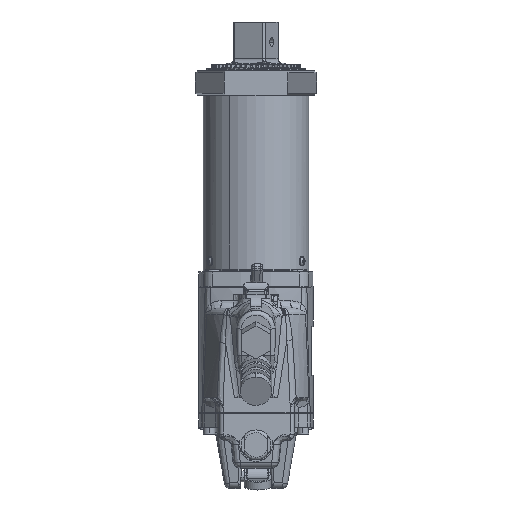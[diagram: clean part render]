
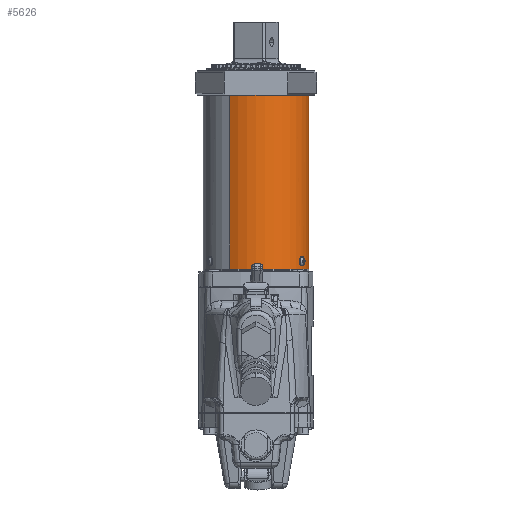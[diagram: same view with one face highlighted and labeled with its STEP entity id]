
A CAD part, front view. The second image highlights one B-rep face of the part: STEP entity #5626.
In plain terms, the highlighted cylindrical face has radius 38.735 mm (diameter 77.47 mm), a partial arc.
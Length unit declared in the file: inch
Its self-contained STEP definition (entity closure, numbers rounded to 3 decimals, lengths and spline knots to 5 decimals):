
#192 = CARTESIAN_POINT ( 'NONE',  ( 1.32067, -0.76252, -3.33173 ) ) ;
#588 = B_SPLINE_CURVE_WITH_KNOTS ( 'NONE', 3,
 ( #29087, #99919, #59544, #130090, #69755, #9391, #80006, #19465, #90167, #29525, #100356, #39599, #110484, #49751, #120561, #59972, #130521, #70200, #9803, #80447, #19900, #90597, #29943, #100785, #40022, #110931, #50177, #120983, #60412, #192 ),
 .UNSPECIFIED., .F., .F.,
 ( 4, 2, 2, 2, 2, 2, 2, 2, 2, 2, 2, 2, 2, 2, 4 ),
 ( 0., 0.00039, 0.00077, 0.00116, 0.00155, 0.00232, 0.0031, 0.00348, 0.00387, 0.00426, 0.00465, 0.00503, 0.00542, 0.00581, 0.00619 ),
 .UNSPECIFIED. ) ;
#842 = DIRECTION ( 'NONE',  ( 0., 0., 1. ) ) ;
#1656 = ORIENTED_EDGE ( 'NONE', *, *, #43290, .T. ) ;
#4746 = ORIENTED_EDGE ( 'NONE', *, *, #44023, .T. ) ;
#5626 = ADVANCED_FACE ( 'NONE', ( #41154, #64947 ), #52189, .T. ) ;
#9391 = CARTESIAN_POINT ( 'NONE',  ( 1.30306, -0.79226, -3.47983 ) ) ;
#9567 = CARTESIAN_POINT ( 'NONE',  ( 1.35773, -0.69441, -3.39944 ) ) ;
#9803 = CARTESIAN_POINT ( 'NONE',  ( 1.28555, -0.82037, -3.37064 ) ) ;
#9975 = CARTESIAN_POINT ( 'NONE',  ( 1.33767, -0.73232, -3.47981 ) ) ;
#11226 = VERTEX_POINT ( 'NONE', #31958 ) ;
#12557 = ORIENTED_EDGE ( 'NONE', *, *, #41758, .F. ) ;
#12712 = CARTESIAN_POINT ( 'NONE',  ( -0.7625, -1.32069, -3.63973 ) ) ;
#13536 = CARTESIAN_POINT ( 'NONE',  ( 0., 0., 1.47527 ) ) ;
#15139 = CARTESIAN_POINT ( 'NONE',  ( 1.32069, -0.7625, -3.48773 ) ) ;
#16428 = DIRECTION ( 'NONE',  ( 0., 0., 1. ) ) ;
#19465 = CARTESIAN_POINT ( 'NONE',  ( 1.29628, -0.80331, -3.47177 ) ) ;
#19646 = CARTESIAN_POINT ( 'NONE',  ( 1.35796, -0.69395, -3.4148 ) ) ;
#19900 = CARTESIAN_POINT ( 'NONE',  ( 1.2903, -0.81287, -3.35824 ) ) ;
#20078 = CARTESIAN_POINT ( 'NONE',  ( 1.32584, -0.75357, -3.48773 ) ) ;
#23626 = DIRECTION ( 'NONE',  ( -0.5, -0.866, 0. ) ) ;
#29087 = CARTESIAN_POINT ( 'NONE',  ( 1.32069, -0.7625, -3.48773 ) ) ;
#29264 = CARTESIAN_POINT ( 'NONE',  ( 1.3308, -0.74477, -3.33377 ) ) ;
#29525 = CARTESIAN_POINT ( 'NONE',  ( 1.28842, -0.81587, -3.45768 ) ) ;
#29576 = VERTEX_POINT ( 'NONE', #30982 ) ;
#29585 = CIRCLE ( 'NONE', #78552, 1.525 ) ;
#29692 = CARTESIAN_POINT ( 'NONE',  ( 1.35683, -0.69615, -3.42985 ) ) ;
#29943 = CARTESIAN_POINT ( 'NONE',  ( 1.29625, -0.80335, -3.34773 ) ) ;
#30982 = CARTESIAN_POINT ( 'NONE',  ( 0.7625, 1.32069, -3.63973 ) ) ;
#31958 = CARTESIAN_POINT ( 'NONE',  ( 1.32067, -0.76252, -3.33173 ) ) ;
#36085 = CARTESIAN_POINT ( 'NONE',  ( 0.7625, 1.32069, -3.63973 ) ) ;
#37492 = B_SPLINE_CURVE_WITH_KNOTS ( 'NONE', 3,
 ( #59279, #69496, #29264, #100097, #39358, #110236, #49496, #120318, #59725, #130264, #69939, #9567, #80182, #19646, #90345, #29692, #100536, #39774, #110658, #49926, #120732, #60151, #130683, #70385, #9975, #80626, #20078, #90766 ),
 .UNSPECIFIED., .F., .F.,
 ( 4, 2, 2, 2, 2, 2, 2, 2, 2, 2, 2, 2, 2, 4 ),
 ( 0.00619, 0.00697, 0.00774, 0.00813, 0.00852, 0.0089, 0.00929, 0.00968, 0.01007, 0.01045, 0.01084, 0.01123, 0.01161, 0.01239 ),
 .UNSPECIFIED. ) ;
#38902 = CIRCLE ( 'NONE', #70946, 1.525 ) ;
#39358 = CARTESIAN_POINT ( 'NONE',  ( 1.344, -0.72065, -3.34734 ) ) ;
#39599 = CARTESIAN_POINT ( 'NONE',  ( 1.28108, -0.82733, -3.43021 ) ) ;
#39774 = CARTESIAN_POINT ( 'NONE',  ( 1.35436, -0.70096, -3.44426 ) ) ;
#40022 = CARTESIAN_POINT ( 'NONE',  ( 1.30306, -0.79227, -3.33963 ) ) ;
#40360 = DIRECTION ( 'NONE',  ( 0., 0., 1. ) ) ;
#41154 = FACE_OUTER_BOUND ( 'NONE', #52149, .T. ) ;
#41758 = EDGE_CURVE ( 'NONE', #75124, #117635, #130231, .T. ) ;
#42178 = VECTOR ( 'NONE', #16428, 39.37008 ) ;
#42510 = EDGE_CURVE ( 'NONE', #29576, #84598, #99316, .T. ) ;
#42531 = EDGE_CURVE ( 'NONE', #29576, #75124, #29585, .T. ) ;
#43290 = EDGE_CURVE ( 'NONE', #84598, #117635, #38902, .T. ) ;
#43836 = EDGE_CURVE ( 'NONE', #72270, #11226, #588, .T. ) ;
#44023 = EDGE_CURVE ( 'NONE', #11226, #72270, #37492, .T. ) ;
#48704 = ORIENTED_EDGE ( 'NONE', *, *, #42510, .T. ) ;
#49496 = CARTESIAN_POINT ( 'NONE',  ( 1.3506, -0.70818, -3.36212 ) ) ;
#49751 = CARTESIAN_POINT ( 'NONE',  ( 1.27996, -0.82905, -3.40468 ) ) ;
#49926 = CARTESIAN_POINT ( 'NONE',  ( 1.35064, -0.7081, -3.45722 ) ) ;
#50177 = CARTESIAN_POINT ( 'NONE',  ( 1.31044, -0.78, -3.33424 ) ) ;
#50588 = CARTESIAN_POINT ( 'NONE',  ( 0., 0., -3.63973 ) ) ;
#52149 = EDGE_LOOP ( 'NONE', ( #12557, #72584, #48704, #1656 ) ) ;
#52189 = CYLINDRICAL_SURFACE ( 'NONE', #86091, 1.525 ) ;
#54695 = DIRECTION ( 'NONE',  ( 0.5, 0.866, 0. ) ) ;
#56360 = CARTESIAN_POINT ( 'NONE',  ( 0., 0., -3.63973 ) ) ;
#59279 = CARTESIAN_POINT ( 'NONE',  ( 1.32067, -0.76252, -3.33173 ) ) ;
#59544 = CARTESIAN_POINT ( 'NONE',  ( 1.31556, -0.77134, -3.48722 ) ) ;
#59725 = CARTESIAN_POINT ( 'NONE',  ( 1.35433, -0.70102, -3.37508 ) ) ;
#59972 = CARTESIAN_POINT ( 'NONE',  ( 1.28132, -0.82696, -3.38951 ) ) ;
#60151 = CARTESIAN_POINT ( 'NONE',  ( 1.34574, -0.71738, -3.46844 ) ) ;
#60412 = CARTESIAN_POINT ( 'NONE',  ( 1.31813, -0.76693, -3.33173 ) ) ;
#60833 = DIRECTION ( 'NONE',  ( -0.5, -0.866, 0. ) ) ;
#61852 = CARTESIAN_POINT ( 'NONE',  ( -0.7625, -1.32069, -3.63973 ) ) ;
#61866 = EDGE_LOOP ( 'NONE', ( #82091, #4746 ) ) ;
#64947 = FACE_BOUND ( 'NONE', #61866, .T. ) ;
#69496 = CARTESIAN_POINT ( 'NONE',  ( 1.32577, -0.75371, -3.33172 ) ) ;
#69755 = CARTESIAN_POINT ( 'NONE',  ( 1.30794, -0.78418, -3.48374 ) ) ;
#69939 = CARTESIAN_POINT ( 'NONE',  ( 1.35682, -0.69619, -3.38947 ) ) ;
#70200 = CARTESIAN_POINT ( 'NONE',  ( 1.28423, -0.82243, -3.3752 ) ) ;
#70385 = CARTESIAN_POINT ( 'NONE',  ( 1.33984, -0.72833, -3.47737 ) ) ;
#70946 = AXIS2_PLACEMENT_3D ( 'NONE', #13536, #84168, #23626 ) ;
#72270 = VERTEX_POINT ( 'NONE', #15139 ) ;
#72584 = ORIENTED_EDGE ( 'NONE', *, *, #42531, .F. ) ;
#75124 = VERTEX_POINT ( 'NONE', #61852 ) ;
#75547 = CARTESIAN_POINT ( 'NONE',  ( 0.7625, 1.32069, 1.47527 ) ) ;
#76762 = VECTOR ( 'NONE', #842, 39.37008 ) ;
#78552 = AXIS2_PLACEMENT_3D ( 'NONE', #50588, #121405, #60833 ) ;
#80006 = CARTESIAN_POINT ( 'NONE',  ( 1.30072, -0.79609, -3.47743 ) ) ;
#80182 = CARTESIAN_POINT ( 'NONE',  ( 1.35796, -0.69396, -3.4045 ) ) ;
#80447 = CARTESIAN_POINT ( 'NONE',  ( 1.28858, -0.8156, -3.36218 ) ) ;
#80626 = CARTESIAN_POINT ( 'NONE',  ( 1.33087, -0.74465, -3.48566 ) ) ;
#82091 = ORIENTED_EDGE ( 'NONE', *, *, #43836, .T. ) ;
#84168 = DIRECTION ( 'NONE',  ( 0., 0., -1. ) ) ;
#84598 = VERTEX_POINT ( 'NONE', #75547 ) ;
#86091 = AXIS2_PLACEMENT_3D ( 'NONE', #56360, #40360, #54695 ) ;
#90167 = CARTESIAN_POINT ( 'NONE',  ( 1.29416, -0.80672, -3.46848 ) ) ;
#90345 = CARTESIAN_POINT ( 'NONE',  ( 1.35773, -0.6944, -3.41988 ) ) ;
#90597 = CARTESIAN_POINT ( 'NONE',  ( 1.29417, -0.8067, -3.35096 ) ) ;
#90766 = CARTESIAN_POINT ( 'NONE',  ( 1.32069, -0.7625, -3.48773 ) ) ;
#96356 = CARTESIAN_POINT ( 'NONE',  ( -0.7625, -1.32069, 1.47527 ) ) ;
#99316 = LINE ( 'NONE', #36085, #42178 ) ;
#99919 = CARTESIAN_POINT ( 'NONE',  ( 1.31811, -0.76696, -3.48773 ) ) ;
#100097 = CARTESIAN_POINT ( 'NONE',  ( 1.33987, -0.72832, -3.34153 ) ) ;
#100356 = CARTESIAN_POINT ( 'NONE',  ( 1.28529, -0.82077, -3.44898 ) ) ;
#100536 = CARTESIAN_POINT ( 'NONE',  ( 1.35615, -0.69748, -3.4348 ) ) ;
#100785 = CARTESIAN_POINT ( 'NONE',  ( 1.30068, -0.79616, -3.34208 ) ) ;
#110236 = CARTESIAN_POINT ( 'NONE',  ( 1.34906, -0.7111, -3.35811 ) ) ;
#110484 = CARTESIAN_POINT ( 'NONE',  ( 1.27996, -0.82905, -3.41995 ) ) ;
#110658 = CARTESIAN_POINT ( 'NONE',  ( 1.35325, -0.70309, -3.44874 ) ) ;
#110931 = CARTESIAN_POINT ( 'NONE',  ( 1.30794, -0.78418, -3.33572 ) ) ;
#117635 = VERTEX_POINT ( 'NONE', #96356 ) ;
#120318 = CARTESIAN_POINT ( 'NONE',  ( 1.35322, -0.70315, -3.3706 ) ) ;
#120561 = CARTESIAN_POINT ( 'NONE',  ( 1.28023, -0.82863, -3.39951 ) ) ;
#120732 = CARTESIAN_POINT ( 'NONE',  ( 1.34911, -0.71102, -3.46124 ) ) ;
#120983 = CARTESIAN_POINT ( 'NONE',  ( 1.31552, -0.7714, -3.33224 ) ) ;
#121405 = DIRECTION ( 'NONE',  ( 0., 0., -1. ) ) ;
#130090 = CARTESIAN_POINT ( 'NONE',  ( 1.31048, -0.77992, -3.48524 ) ) ;
#130231 = LINE ( 'NONE', #12712, #76762 ) ;
#130264 = CARTESIAN_POINT ( 'NONE',  ( 1.35613, -0.69753, -3.38451 ) ) ;
#130521 = CARTESIAN_POINT ( 'NONE',  ( 1.28212, -0.82572, -3.38465 ) ) ;
#130683 = CARTESIAN_POINT ( 'NONE',  ( 1.34389, -0.72084, -3.47167 ) ) ;
